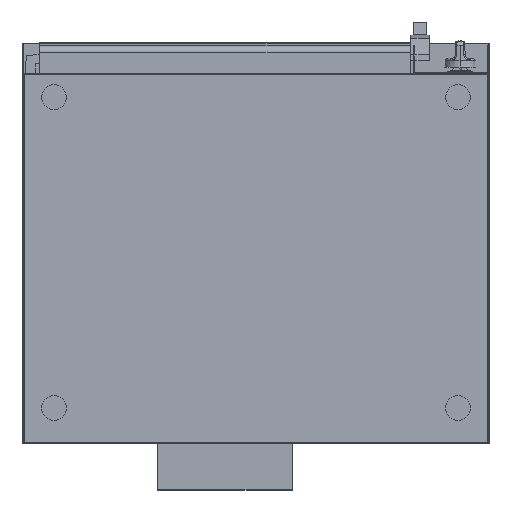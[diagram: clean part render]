
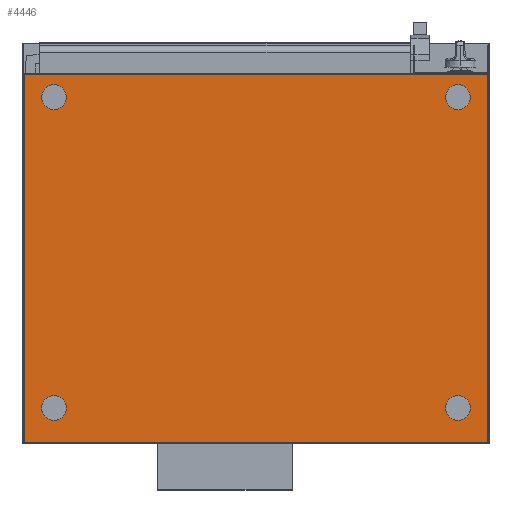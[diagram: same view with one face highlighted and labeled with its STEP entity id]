
A CAD part, front view. The second image highlights one B-rep face of the part: STEP entity #4446.
In plain terms, the highlighted planar face has unit normal (0, -1, 0).
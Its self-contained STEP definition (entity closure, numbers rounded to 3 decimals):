
#1941=DIRECTION('',(0.,0.,1.));
#1942=VECTOR('',#1941,593.4);
#1943=CARTESIAN_POINT('',(-373.2,-271.5,-296.7));
#1944=LINE('',#1943,#1942);
#1945=DIRECTION('',(-1.,0.,0.));
#1946=VECTOR('',#1945,746.4);
#1947=CARTESIAN_POINT('',(373.2,-271.5,296.7));
#1948=LINE('',#1947,#1946);
#1949=DIRECTION('',(0.,0.,1.));
#1950=VECTOR('',#1949,593.4);
#1951=CARTESIAN_POINT('',(373.2,-271.5,-296.7));
#1952=LINE('',#1951,#1950);
#1953=DIRECTION('',(1.,0.,0.));
#1954=VECTOR('',#1953,746.4);
#1955=CARTESIAN_POINT('',(-373.2,-271.5,-296.7));
#1956=LINE('',#1955,#1954);
#3110=CARTESIAN_POINT('',(-373.2,-271.5,-296.7));
#3111=CARTESIAN_POINT('',(-373.2,-271.5,296.7));
#3112=VERTEX_POINT('',#3110);
#3113=VERTEX_POINT('',#3111);
#3114=CARTESIAN_POINT('',(373.2,-271.5,-296.7));
#3115=VERTEX_POINT('',#3114);
#3116=CARTESIAN_POINT('',(373.2,-271.5,296.7));
#3117=VERTEX_POINT('',#3116);
#4432=CARTESIAN_POINT('',(-374.,-271.5,-297.5));
#4433=DIRECTION('',(0.,1.,0.));
#4434=DIRECTION('',(1.,0.,0.));
#4435=AXIS2_PLACEMENT_3D('',#4432,#4433,#4434);
#4436=PLANE('',#4435);
#4438=ORIENTED_EDGE('',*,*,#4437,.T.);
#4440=ORIENTED_EDGE('',*,*,#4439,.F.);
#4441=ORIENTED_EDGE('',*,*,#4422,.F.);
#4443=ORIENTED_EDGE('',*,*,#4442,.F.);
#4444=EDGE_LOOP('',(#4438,#4440,#4441,#4443));
#4445=FACE_OUTER_BOUND('',#4444,.F.);
#4422=EDGE_CURVE('',#3115,#3117,#1952,.T.);
#4437=EDGE_CURVE('',#3112,#3113,#1944,.T.);
#4439=EDGE_CURVE('',#3117,#3113,#1948,.T.);
#4442=EDGE_CURVE('',#3112,#3115,#1956,.T.);
#4446=ADVANCED_FACE('',(#4445),#4436,.F.);
